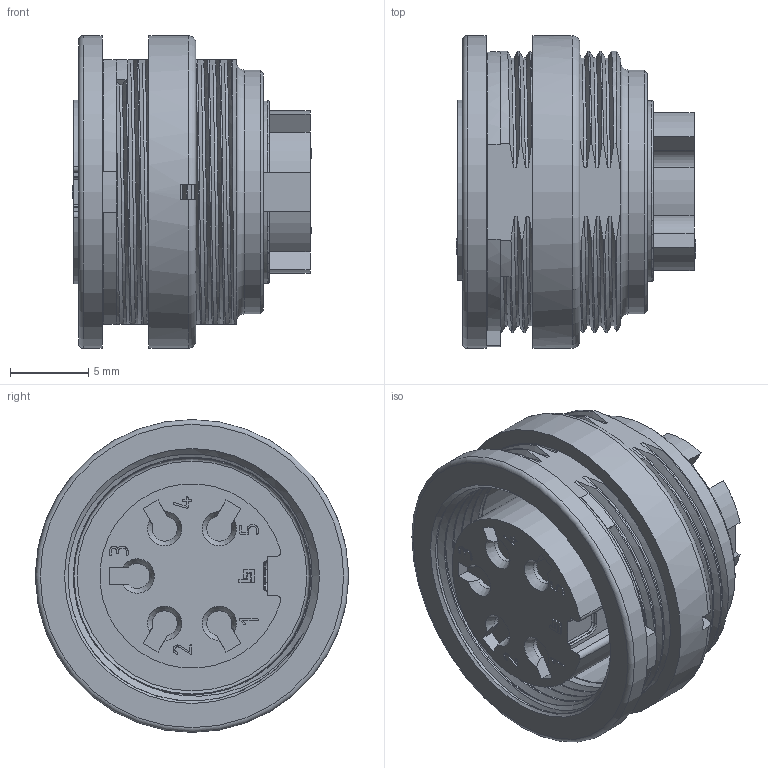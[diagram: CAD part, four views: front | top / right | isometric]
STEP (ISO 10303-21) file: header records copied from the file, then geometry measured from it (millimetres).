
FILE_DESCRIPTION(/* description */ (''),/* implementation_level */ '2;1');
FILE_NAME(/* name */ '09-0316-700-05-001_00-Flanschstecker.stp',/* time_stamp */ '2017-11-03T08:00:21+01:00',/* author */ (''),/* organization */ (''),/* preprocessor_version */ 'ST-DEVELOPER v16',/* originating_system */ 'SIEMENS PLM Software NX 11.0',/* authorisation */ '');
FILE_SCHEMA (('AUTOMOTIVE_DESIGN { 1 0 10303 214 3 1 1 1 }'));
Products named in the file (1): mfur0B880124tx3n
Bounding box: 15.3 x 20 x 20 mm (x, y, z)
Volume: 2524 mm3; surface area: 3228.8 mm2
Topology: 2 solids, 7 shells, 497 faces, 1333 edges, 862 vertices
Faces by surface type: plane 225, cylinder 158, bspline 48, extrusion 24, torus 21, cone 13, sphere 8
Full cylindrical faces by diameter (mm): 13.85 x1, 15.1 x1, 15.6 x1, 18.1 x1, 20 x2
Entity records: 44794 total; most frequent: CARTESIAN_POINT 33041, ORIENTED_EDGE 2614, DIRECTION 2107, EDGE_CURVE 1307, VERTEX_POINT 857, VECTOR 741, LINE 717, AXIS2_PLACEMENT_3D 683
